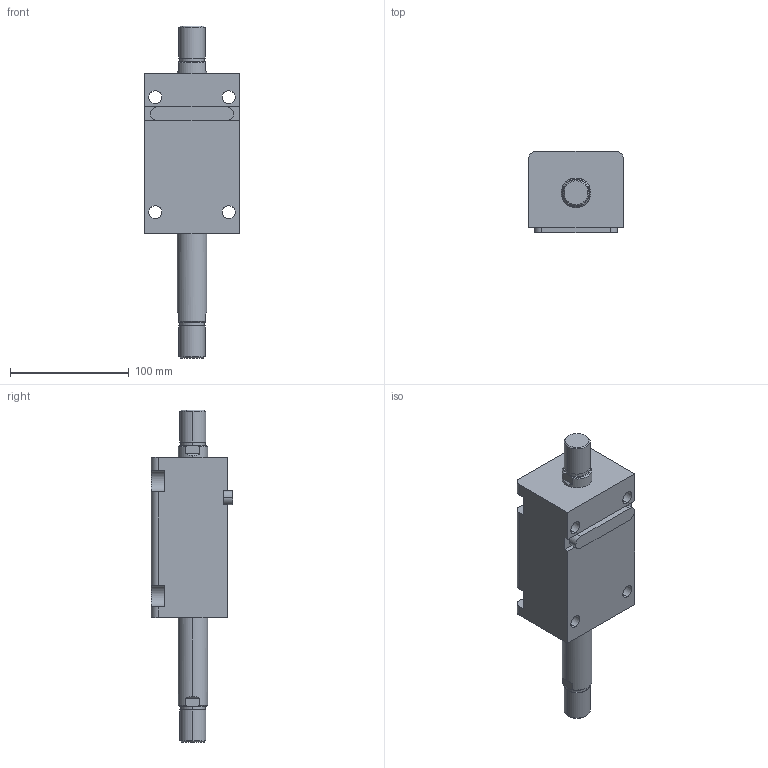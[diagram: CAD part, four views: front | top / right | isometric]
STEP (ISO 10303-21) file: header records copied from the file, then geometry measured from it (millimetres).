
FILE_DESCRIPTION (( 'STEP AP203' ), '1' );
FILE_NAME ('HTB-LW40-65W.STEP', '2019-10-09T07:57:27', ( '微软用户' ), ( '微软中国' ), 'SwSTEP 2.0', 'SolidWorks 2012', '' );
FILE_SCHEMA (( 'CONFIG_CONTROL_DESIGN' ));
Length unit declared in the file: millimetre
Products named in the file (4): HTB-LW40-65W; HTB-LA40-瑩; HTB-LW40-65W活塞杆; HTB-LW40-65掛极
Assembly tree (3 placements, depth 2):
  HTB-LW40-65W
    HTB-LW40-65掛极
    HTB-LW40-65W活塞杆
    HTB-LA40-瑩
Bounding box: 80 x 68.5 x 280 mm (x, y, z)
Volume: 671660.7 mm3; surface area: 100014.1 mm2
Topology: 3 solids, 3 shells, 113 faces, 273 edges, 178 vertices
Faces by surface type: plane 48, cylinder 45, cone 12, torus 8
Entity records: 3779 total; most frequent: CARTESIAN_POINT 622, DIRECTION 617, ORIENTED_EDGE 546, EDGE_CURVE 273, AXIS2_PLACEMENT_3D 241, VERTEX_POINT 178, EDGE_LOOP 135, LINE 135
